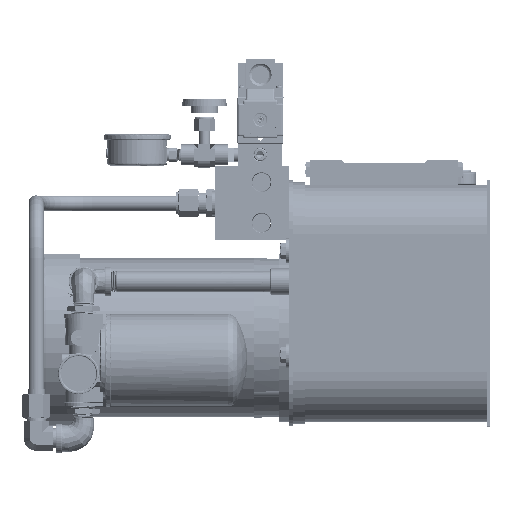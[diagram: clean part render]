
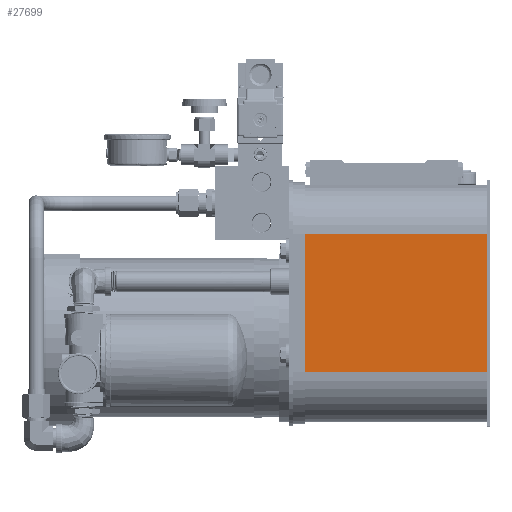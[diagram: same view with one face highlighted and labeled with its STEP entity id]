
A CAD part, top view. The second image highlights one B-rep face of the part: STEP entity #27699.
In plain terms, the highlighted planar face has unit normal (0, 0, 1).
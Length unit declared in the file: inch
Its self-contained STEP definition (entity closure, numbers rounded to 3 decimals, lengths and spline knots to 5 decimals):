
#13276 = DIRECTION ( 'NONE',  ( 0., 1., 0. ) ) ;
#16346 = VECTOR ( 'NONE', #147956, 39.37008 ) ;
#16633 = EDGE_CURVE ( 'NONE', #154444, #191969, #128010, .T. ) ;
#19446 = AXIS2_PLACEMENT_3D ( 'NONE', #197321, #121208, #165298 ) ;
#27699 = ADVANCED_FACE ( 'NONE', ( #104277 ), #150290, .T. ) ;
#37284 = LINE ( 'NONE', #113994, #16346 ) ;
#46915 = EDGE_LOOP ( 'NONE', ( #142695, #79311, #117079, #107702 ) ) ;
#51191 = VERTEX_POINT ( 'NONE', #158810 ) ;
#59389 = VECTOR ( 'NONE', #13276, 39.37008 ) ;
#62736 = CARTESIAN_POINT ( 'NONE',  ( 7.68416, 11.1486, 18.29139 ) ) ;
#66227 = CARTESIAN_POINT ( 'NONE',  ( -0.19624, 11.1486, 18.29139 ) ) ;
#79311 = ORIENTED_EDGE ( 'NONE', *, *, #100167, .F. ) ;
#86143 = LINE ( 'NONE', #164002, #59389 ) ;
#97386 = EDGE_CURVE ( 'NONE', #157890, #191969, #86143, .T. ) ;
#100167 = EDGE_CURVE ( 'NONE', #51191, #154444, #130933, .T. ) ;
#104277 = FACE_OUTER_BOUND ( 'NONE', #46915, .T. ) ;
#107702 = ORIENTED_EDGE ( 'NONE', *, *, #97386, .T. ) ;
#113994 = CARTESIAN_POINT ( 'NONE',  ( -0.19624, 5.5236, 18.29139 ) ) ;
#117079 = ORIENTED_EDGE ( 'NONE', *, *, #145121, .T. ) ;
#121208 = DIRECTION ( 'NONE',  ( 0., 0., 1. ) ) ;
#127587 = CARTESIAN_POINT ( 'NONE',  ( 7.68416, 5.5236, 18.29139 ) ) ;
#128010 = LINE ( 'NONE', #66227, #163201 ) ;
#130933 = LINE ( 'NONE', #146933, #168243 ) ;
#136785 = CARTESIAN_POINT ( 'NONE',  ( -0.07124, 11.1486, 18.29139 ) ) ;
#141102 = DIRECTION ( 'NONE',  ( 1., 0., 0. ) ) ;
#142695 = ORIENTED_EDGE ( 'NONE', *, *, #16633, .F. ) ;
#145121 = EDGE_CURVE ( 'NONE', #51191, #157890, #37284, .T. ) ;
#146933 = CARTESIAN_POINT ( 'NONE',  ( -0.07124, 5.5236, 18.29139 ) ) ;
#147956 = DIRECTION ( 'NONE',  ( 1., 0., 0. ) ) ;
#150290 = PLANE ( 'NONE',  #19446 ) ;
#154444 = VERTEX_POINT ( 'NONE', #136785 ) ;
#157890 = VERTEX_POINT ( 'NONE', #127587 ) ;
#158810 = CARTESIAN_POINT ( 'NONE',  ( -0.07124, 5.5236, 18.29139 ) ) ;
#163201 = VECTOR ( 'NONE', #141102, 39.37008 ) ;
#164002 = CARTESIAN_POINT ( 'NONE',  ( 7.68416, 13.3361, 18.29139 ) ) ;
#165298 = DIRECTION ( 'NONE',  ( 0., 1., 0. ) ) ;
#168243 = VECTOR ( 'NONE', #191999, 39.37008 ) ;
#191969 = VERTEX_POINT ( 'NONE', #62736 ) ;
#191999 = DIRECTION ( 'NONE',  ( 0., 1., 0. ) ) ;
#197321 = CARTESIAN_POINT ( 'NONE',  ( -0.19624, 5.5236, 18.29139 ) ) ;
